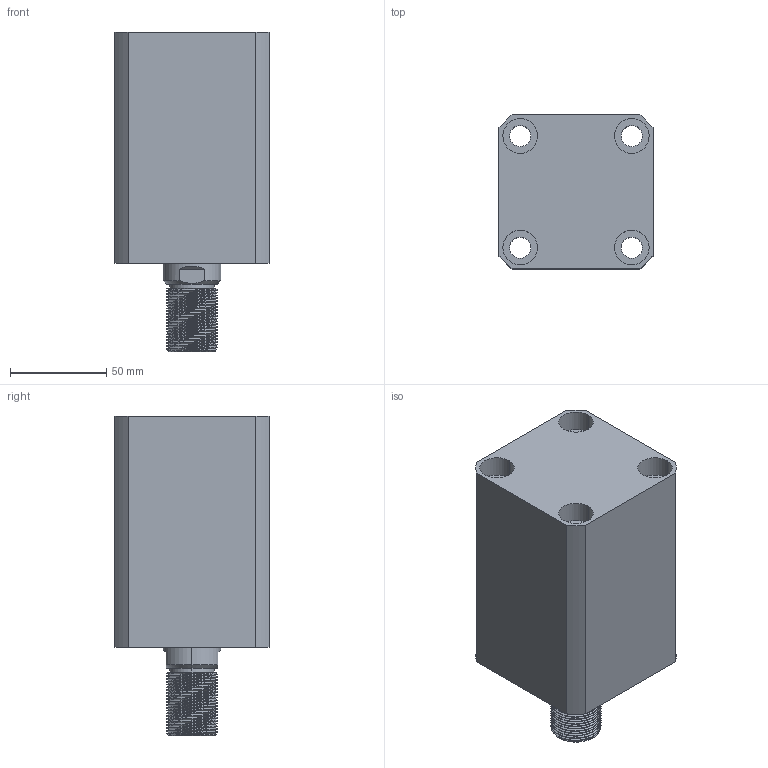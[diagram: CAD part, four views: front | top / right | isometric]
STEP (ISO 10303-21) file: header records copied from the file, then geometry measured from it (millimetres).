
FILE_DESCRIPTION (( 'STEP AP203' ), '1' );
FILE_NAME ('CHTB-SD50-60W.STEP', '2018-05-19T00:04:13', ( '' ), ( '' ), 'SwSTEP 2.0', 'SolidWorks 2015', '' );
FILE_SCHEMA (( 'CONFIG_CONTROL_DESIGN' ));
Length unit declared in the file: millimetre
Products named in the file (4): CHTB-SD50-60W; 活塞杆SD50-60W; CHTM-SD50QG; 掛极SD50-60W
Assembly tree (3 placements, depth 2):
  CHTB-SD50-60W
    掛极SD50-60W
    活塞杆SD50-60W
    CHTM-SD50QG
Bounding box: 80 x 80 x 166 mm (x, y, z)
Volume: 640446.6 mm3; surface area: 123305.2 mm2
Topology: 3 solids, 3 shells, 236 faces, 627 edges, 419 vertices
Faces by surface type: cylinder 144, plane 41, cone 19, bspline 16, torus 16
Entity records: 14613 total; most frequent: CARTESIAN_POINT 8784, ORIENTED_EDGE 1246, DIRECTION 1029, EDGE_CURVE 623, AXIS2_PLACEMENT_3D 422, VERTEX_POINT 419, EDGE_LOOP 276, ADVANCED_FACE 236
